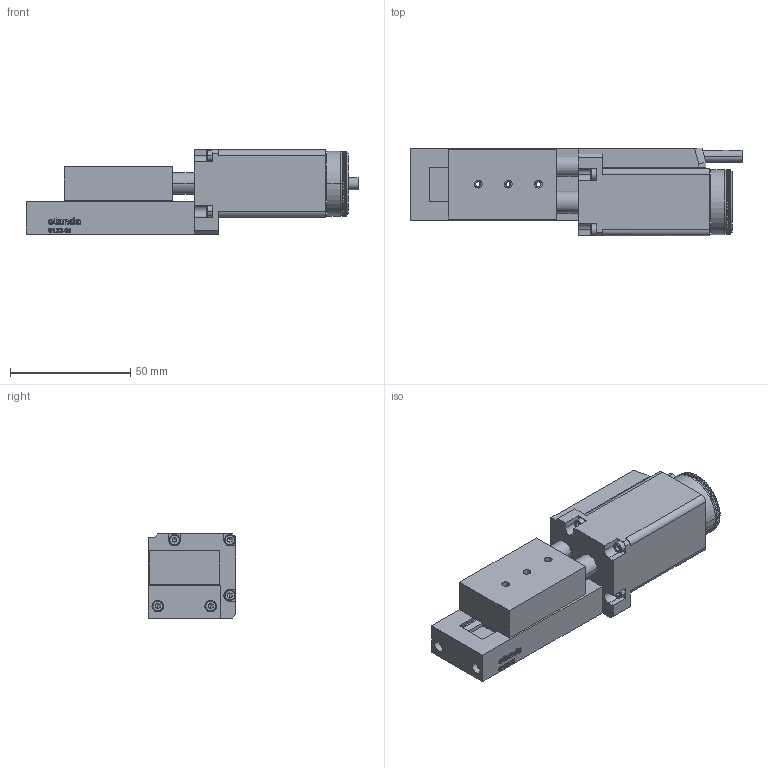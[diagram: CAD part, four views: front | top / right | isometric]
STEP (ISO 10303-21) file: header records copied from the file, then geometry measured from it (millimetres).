
FILE_DESCRIPTION (( 'STEP AP203' ), '1' );
FILE_NAME ('8MT173-20-28.STEP', '2008-04-29T05:41:36', ( 'STANDA' ), ( '' ), 'SwSTEP 2.0', 'SolidWorks 2003240', '' );
FILE_SCHEMA (( 'CONFIG_CONTROL_DESIGN' ));
Products named in the file (1): 8MT173-20-28
Bounding box: 138 x 36.5 x 35 mm (x, y, z)
Volume: 101936.3 mm3; surface area: 31257.8 mm2
Topology: 1 solids, 25 shells, 1428 faces, 3760 edges, 2417 vertices
Faces by surface type: plane 647, cylinder 575, bspline 150, cone 56
Entity records: 47735 total; most frequent: CARTESIAN_POINT 13213, ORIENTED_EDGE 7432, DIRECTION 6889, EDGE_CURVE 3716, AXIS2_PLACEMENT_3D 2500, VERTEX_POINT 2416, VECTOR 1889, LINE 1889
